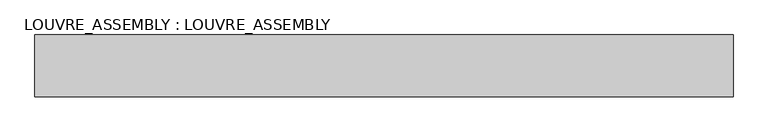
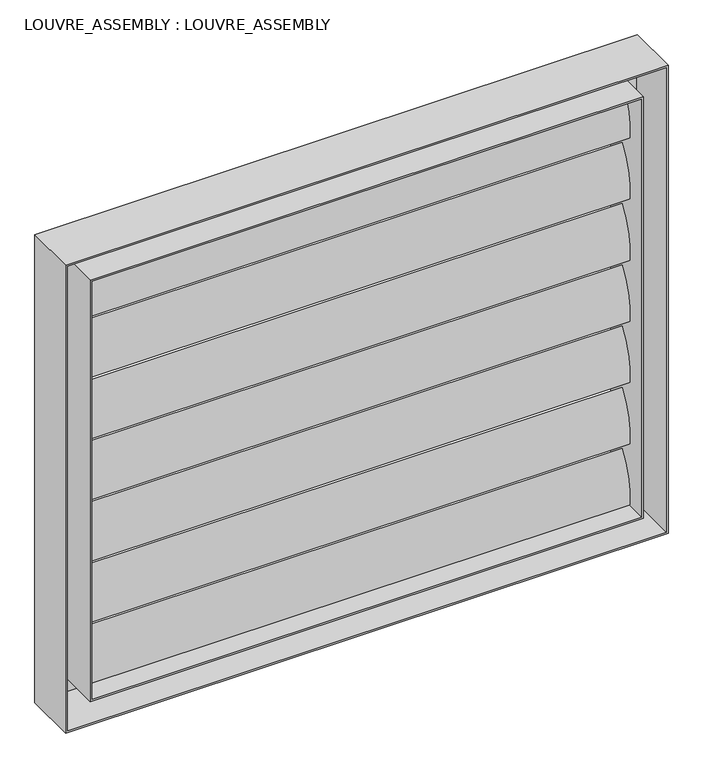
"""IFC4 building model written with IfcOpenShell, lengths in millimetres: plate geometry, LOUVRE_ASSEMBLY : LOUVRE_ASSEMBLY."""

from ifc_helpers import new_model, si_unit, point, frame, frame_2d, origin, place, context, project, spatial, circle_curve, trimmed, segment, composite_curve, outline, extrude, faceted_brep, source, transform, mapped, element, save


def louvre_assembly_louvre_assembly_078862d1(model_context):
    return source(origin(), model_context, "Body", "SolidModel", [
        extrude(outline(composite_curve([segment(trimmed(circle_curve(frame_2d((202.8444235, 278.1480005)), 222.9910312), [point((-19.4114284, 260.055563))], [point((19.4114284, 404.944437))], False, "CARTESIAN"), True, "CONTINUOUS"), segment(trimmed(circle_curve(frame_2d((-202.8444235, 386.8519995)), 222.9910312), [point((19.4114284, 404.944437))], [point((-19.4114284, 260.055563))], False, "CARTESIAN"), True, "CONTINUOUS")], self_intersect=False)), frame((-775.0, 0.0, 0.0), z_axis=(1.0, 0.0, 0.0), x_axis=(0.0, 1.0, 0.0)), (0.0, 0.0, 1.0), 1550.0),
        extrude(outline(composite_curve([segment(trimmed(circle_curve(frame_2d((202.8444235, 460.6480005)), 222.9910312), [point((-19.4114284, 442.555563))], [point((19.4114284, 587.444437))], False, "CARTESIAN"), True, "CONTINUOUS"), segment(trimmed(circle_curve(frame_2d((-202.8444235, 569.3519995)), 222.9910312), [point((19.4114284, 587.444437))], [point((-19.4114284, 442.555563))], False, "CARTESIAN"), True, "CONTINUOUS")], self_intersect=False)), frame((-775.0, 0.0, 0.0), z_axis=(1.0, 0.0, 0.0), x_axis=(0.0, 1.0, 0.0)), (0.0, 0.0, 1.0), 1550.0),
        extrude(outline(composite_curve([segment(trimmed(circle_curve(frame_2d((202.8444235, 643.1480005)), 222.9910312), [point((-19.4114284, 625.055563))], [point((19.4114284, 769.944437))], False, "CARTESIAN"), True, "CONTINUOUS"), segment(trimmed(circle_curve(frame_2d((-202.8444235, 751.8519995)), 222.9910312), [point((19.4114284, 769.944437))], [point((-19.4114284, 625.055563))], False, "CARTESIAN"), True, "CONTINUOUS")], self_intersect=False)), frame((-775.0, 0.0, 0.0), z_axis=(1.0, 0.0, 0.0), x_axis=(0.0, 1.0, 0.0)), (0.0, 0.0, 1.0), 1550.0),
        extrude(outline(composite_curve([segment(trimmed(circle_curve(frame_2d((202.8444235, 825.6480005)), 222.9910312), [point((-19.4114284, 807.555563))], [point((19.4114284, 952.444437))], False, "CARTESIAN"), True, "CONTINUOUS"), segment(trimmed(circle_curve(frame_2d((-202.8444235, 934.3519995)), 222.9910312), [point((19.4114284, 952.444437))], [point((-19.4114284, 807.555563))], False, "CARTESIAN"), True, "CONTINUOUS")], self_intersect=False)), frame((-775.0, 0.0, 0.0), z_axis=(1.0, 0.0, 0.0), x_axis=(0.0, 1.0, 0.0)), (0.0, 0.0, 1.0), 1550.0),
        extrude(outline(composite_curve([segment(trimmed(circle_curve(frame_2d((202.8444235, 1008.1480005)), 222.9910312), [point((-19.4114284, 990.055563))], [point((19.4114284, 1134.944437))], False, "CARTESIAN"), True, "CONTINUOUS"), segment(trimmed(circle_curve(frame_2d((-202.8444235, 1116.8519995)), 222.9910312), [point((19.4114284, 1134.944437))], [point((-19.4114284, 990.055563))], False, "CARTESIAN"), True, "CONTINUOUS")], self_intersect=False)), frame((-775.0, 0.0, 0.0), z_axis=(1.0, 0.0, 0.0), x_axis=(0.0, 1.0, 0.0)), (0.0, 0.0, 1.0), 1550.0),
        extrude(outline(composite_curve([segment(trimmed(circle_curve(frame_2d((202.8444235, 95.6480005)), 222.9910312), [point((-19.4114284, 77.555563))], [point((19.4114284, 222.444437))], False, "CARTESIAN"), True, "CONTINUOUS"), segment(trimmed(circle_curve(frame_2d((-202.8444235, 204.3519995)), 222.9910312), [point((19.4114284, 222.444437))], [point((-19.4114284, 77.555563))], False, "CARTESIAN"), True, "CONTINUOUS")], self_intersect=False)), frame((-775.0, 0.0, 0.0), z_axis=(1.0, 0.0, 0.0), x_axis=(0.0, 1.0, 0.0)), (0.0, 0.0, 1.0), 1550.0),
        extrude(outline(composite_curve([segment(trimmed(circle_curve(frame_2d((202.8444235, 1190.6480005)), 222.9910312), [point((-19.4114284, 1172.555563))], [point((19.4114284, 1317.444437))], False, "CARTESIAN"), True, "CONTINUOUS"), segment(trimmed(circle_curve(frame_2d((-202.8444235, 1299.3519995)), 222.9910312), [point((19.4114284, 1317.444437))], [point((-19.4114284, 1172.555563))], False, "CARTESIAN"), True, "CONTINUOUS")], self_intersect=False)), frame((-775.0, 0.0, 0.0), z_axis=(1.0, 0.0, 0.0), x_axis=(0.0, 1.0, 0.0)), (0.0, 0.0, 1.0), 1550.0),
        faceted_brep([(-850.0, 75.0, 1395.0), (-850.0, 75.0, 0.0), (-850.0, -75.0, 0.0), (-850.0, -75.0, 1395.0), (-844.375, -75.0, 1389.375), (-844.375, -75.0, 5.625), (-844.375, 69.375, 5.625), (-844.375, 69.375, 1389.375), (-780.625, 69.375, 1325.625), (-780.625, 69.375, 69.375), (-780.625, -75.0, 69.375), (-780.625, -75.0, 1325.625), (-775.0, -75.0, 1320.0), (-775.0, -75.0, 75.0), (-775.0, 75.0, 75.0), (-775.0, 75.0, 1320.0), (850.0, 75.0, 0.0), (850.0, -75.0, 0.0), (844.375, -75.0, 5.625), (844.375, 69.375, 5.625), (780.625, 69.375, 69.375), (780.625, -75.0, 69.375), (775.0, -75.0, 75.0), (775.0, 75.0, 75.0), (850.0, 75.0, 1395.0), (850.0, -75.0, 1395.0), (844.375, -75.0, 1389.375), (844.375, 69.375, 1389.375), (780.625, 69.375, 1325.625), (780.625, -75.0, 1325.625), (775.0, -75.0, 1320.0), (775.0, 75.0, 1320.0)], [[[0, 1, 2, 3]], [[4, 5, 6, 7]], [[8, 9, 10, 11]], [[12, 13, 14, 15]], [[1, 16, 17, 2]], [[5, 18, 19, 6]], [[9, 20, 21, 10]], [[13, 22, 23, 14]], [[16, 24, 25, 17]], [[18, 26, 27, 19]], [[20, 28, 29, 21]], [[22, 30, 31, 23]], [[24, 0, 3, 25]], [[26, 4, 7, 27]], [[28, 8, 11, 29]], [[30, 12, 15, 31]], [[1, 0, 24, 16], [15, 14, 23, 31]], [[11, 10, 21, 29], [13, 12, 30, 22]], [[7, 6, 19, 27], [9, 8, 28, 20]], [[3, 2, 17, 25], [5, 4, 26, 18]]]),
    ])


if __name__ == "__main__":
    model = new_model("IFC4")
    model_context = context("Model", 3, world=origin())
    ifc_project = project(units=[si_unit("LENGTHUNIT", "METRE", prefix="MILLI")], contexts=[model_context])
    site = spatial("IfcSite", under=ifc_project)
    building = spatial("IfcBuilding", under=site)
    placement = place(None, origin())
    louvre_assembly_louvre_assembly_shape = louvre_assembly_louvre_assembly_078862d1(model_context)
    element("IfcPlate", 1, ObjectType="LOUVRE_ASSEMBLY : LOUVRE_ASSEMBLY", at=placement, inside=building, context=model_context, shape_type="MappedRepresentation", body=[
        mapped(louvre_assembly_louvre_assembly_shape, transform((0.0, 0.0, 0.0), x_axis=(1.0, 0.0, 0.0), y_axis=(0.0, 1.0, 0.0), z_axis=(0.0, 0.0, 1.0))),
    ])
    save(model, "model.ifc")
